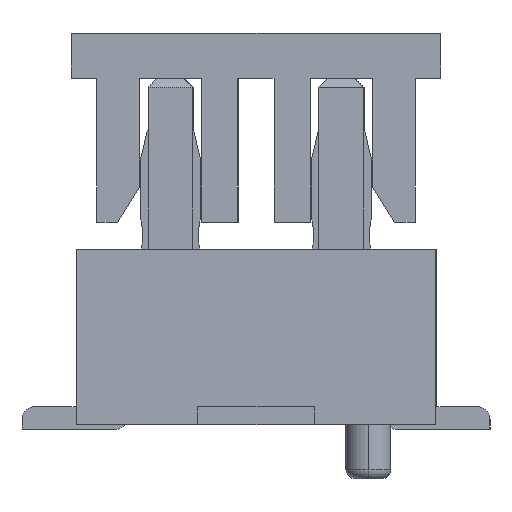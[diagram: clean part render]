
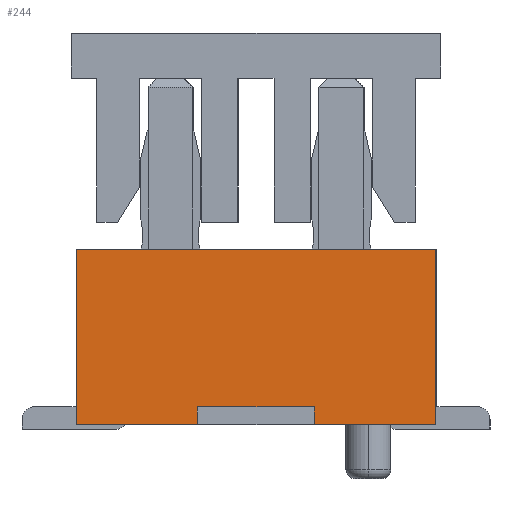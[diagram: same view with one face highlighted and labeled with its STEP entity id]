
A CAD part, left-side view. The second image highlights one B-rep face of the part: STEP entity #244.
In plain terms, the highlighted planar face has unit normal (-1, 0, 0).
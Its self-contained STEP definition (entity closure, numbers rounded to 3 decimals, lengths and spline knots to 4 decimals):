
#173=CARTESIAN_POINT('Axis2P3D Location',(-8.1,0.,0.)) ;
#178=CARTESIAN_POINT('Line Origine',(-8.1,0.65,0.1)) ;
#182=CARTESIAN_POINT('Vertex',(-8.1,0.65,0.)) ;
#184=CARTESIAN_POINT('Vertex',(-8.1,0.65,0.2)) ;
#187=CARTESIAN_POINT('Line Origine',(-8.1,0.,0.2)) ;
#191=CARTESIAN_POINT('Vertex',(-8.1,-0.65,0.2)) ;
#194=CARTESIAN_POINT('Line Origine',(-8.1,-0.65,0.1)) ;
#198=CARTESIAN_POINT('Vertex',(-8.1,-0.65,0.)) ;
#201=CARTESIAN_POINT('Line Origine',(-8.1,-1.325,0.)) ;
#205=CARTESIAN_POINT('Vertex',(-8.1,-2.,0.)) ;
#208=CARTESIAN_POINT('Line Origine',(-8.1,-2.,0.975)) ;
#212=CARTESIAN_POINT('Vertex',(-8.1,-2.,1.95)) ;
#215=CARTESIAN_POINT('Line Origine',(-8.1,0.,1.95)) ;
#219=CARTESIAN_POINT('Vertex',(-8.1,2.,1.95)) ;
#222=CARTESIAN_POINT('Line Origine',(-8.1,2.,0.975)) ;
#226=CARTESIAN_POINT('Vertex',(-8.1,2.,0.)) ;
#229=CARTESIAN_POINT('Line Origine',(-8.1,1.325,0.)) ;
#174=DIRECTION('Axis2P3D Direction',(1.,0.,0.)) ;
#175=DIRECTION('Axis2P3D XDirection',(0.,1.,0.)) ;
#179=DIRECTION('Vector Direction',(0.,0.,1.)) ;
#188=DIRECTION('Vector Direction',(0.,1.,0.)) ;
#195=DIRECTION('Vector Direction',(0.,0.,1.)) ;
#202=DIRECTION('Vector Direction',(0.,1.,0.)) ;
#209=DIRECTION('Vector Direction',(0.,0.,-1.)) ;
#216=DIRECTION('Vector Direction',(0.,1.,0.)) ;
#223=DIRECTION('Vector Direction',(0.,0.,-1.)) ;
#230=DIRECTION('Vector Direction',(0.,1.,0.)) ;
#176=AXIS2_PLACEMENT_3D('Plane Axis2P3D',#173,#174,#175) ;
#235=ORIENTED_EDGE('',*,*,#186,.T.) ;
#236=ORIENTED_EDGE('',*,*,#193,.F.) ;
#237=ORIENTED_EDGE('',*,*,#200,.F.) ;
#238=ORIENTED_EDGE('',*,*,#207,.F.) ;
#239=ORIENTED_EDGE('',*,*,#214,.F.) ;
#240=ORIENTED_EDGE('',*,*,#221,.F.) ;
#241=ORIENTED_EDGE('',*,*,#228,.F.) ;
#242=ORIENTED_EDGE('',*,*,#233,.F.) ;
#180=VECTOR('Line Direction',#179,1.) ;
#189=VECTOR('Line Direction',#188,1.) ;
#196=VECTOR('Line Direction',#195,1.) ;
#203=VECTOR('Line Direction',#202,1.) ;
#210=VECTOR('Line Direction',#209,1.) ;
#217=VECTOR('Line Direction',#216,1.) ;
#224=VECTOR('Line Direction',#223,1.) ;
#231=VECTOR('Line Direction',#230,1.) ;
#244=ADVANCED_FACE('\X2\96F64EF651E04F554F53\X0\',(#243),#177,.F.) ;
#186=EDGE_CURVE('',#183,#185,#181,.T.) ;
#193=EDGE_CURVE('',#192,#185,#190,.T.) ;
#200=EDGE_CURVE('',#199,#192,#197,.T.) ;
#207=EDGE_CURVE('',#206,#199,#204,.T.) ;
#214=EDGE_CURVE('',#213,#206,#211,.T.) ;
#221=EDGE_CURVE('',#220,#213,#218,.F.) ;
#228=EDGE_CURVE('',#227,#220,#225,.F.) ;
#233=EDGE_CURVE('',#183,#227,#232,.T.) ;
#234=EDGE_LOOP('',(#235,#236,#237,#238,#239,#240,#241,#242)) ;
#243=FACE_OUTER_BOUND('',#234,.T.) ;
#181=LINE('Line',#178,#180) ;
#190=LINE('Line',#187,#189) ;
#197=LINE('Line',#194,#196) ;
#204=LINE('Line',#201,#203) ;
#211=LINE('Line',#208,#210) ;
#218=LINE('Line',#215,#217) ;
#225=LINE('Line',#222,#224) ;
#232=LINE('Line',#229,#231) ;
#177=PLANE('Plane',#176) ;
#183=VERTEX_POINT('',#182) ;
#185=VERTEX_POINT('',#184) ;
#192=VERTEX_POINT('',#191) ;
#199=VERTEX_POINT('',#198) ;
#206=VERTEX_POINT('',#205) ;
#213=VERTEX_POINT('',#212) ;
#220=VERTEX_POINT('',#219) ;
#227=VERTEX_POINT('',#226) ;
